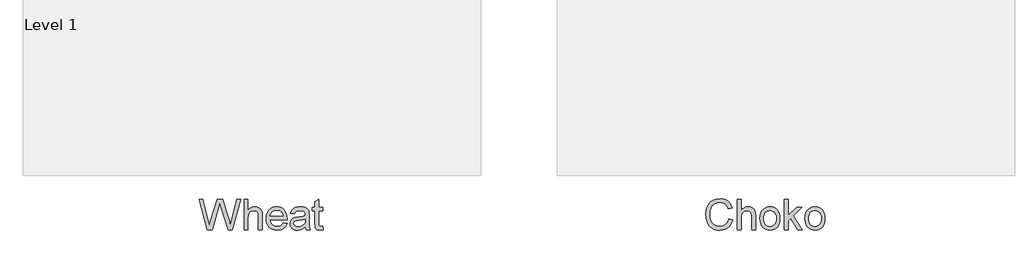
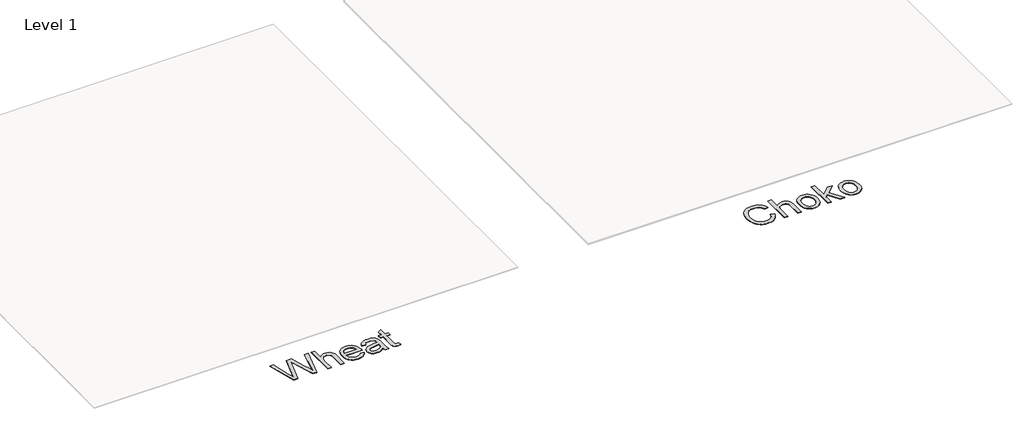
# One storey, part 5 of 5: 2 proxies.
"""IFC4 building model written with IfcOpenShell, lengths in millimetres."""

from ifc_helpers import new_model, si_unit, origin, origin_with_axes, place, context, project, spatial, polyline, outline, extrude, element, save

model = new_model("IFC4")

# Units and contexts
model_context = context("Model", 3, world=origin())
ifc_project = project(units=[si_unit("LENGTHUNIT", "METRE", prefix="MILLI")], contexts=[model_context])

# Site, building, storey
site = spatial("IfcSite", under=ifc_project)
building = spatial("IfcBuilding", under=site)
storey = spatial("IfcBuildingStorey", under=building, Name="Level 1", Elevation=0.0)

# Proxies
placement = place(None, origin())
element("IfcBuildingElementProxy", 1, Name="400mm Arial", ObjectType="400mm Arial", at=placement, inside=storey, context=model_context, shape_type="SweptSolid", body=[
    extrude(outline(polyline([(24753.9457027, 3905.1077423), (24644.3659191, 4306.9329829), (24696.163704, 4306.9329829), (24759.7337128, 4042.8427613), (24779.3540858, 3961.3201112), (24800.347885, 4033.4249822), (24880.0065997, 4306.9329829), (24954.6621193, 4306.9329829), (25012.5422199, 4108.669113), (25037.3374663, 4035.0927139), (25055.6089388, 3961.3201112), (25074.6407006, 4040.4883165), (25138.7012187, 4306.9329829), (25190.5971055, 4306.9329829), (25081.1154238, 3905.1077423), (25027.3556015, 3905.1077423), (24930.9214679, 4215.1096369), (24917.4815123, 4258.3725595), (24902.373825, 4206.280469), (24814.5726555, 3905.1077423), (24753.9457027, 3905.1077423)])), origin_with_axes(), (0.0, 0.0, 1.0), 5.0),
    extrude(outline(polyline([(25234.5467412, 3905.1077423), (25234.5467412, 4306.9329829), (25284.7748963, 4306.9329829), (25284.7748963, 4159.1915736), (25303.2241783, 4179.8788045), (25323.942066, 4194.655398), (25346.9285594, 4203.5213541), (25372.1836583, 4206.4766728), (25402.5216602, 4203.2515739), (25428.5922309, 4193.5762775), (25449.1200463, 4178.2110728), (25462.829782, 4157.9162494), (25470.5553039, 4130.0307942), (25473.1304778, 4091.893694), (25473.1304778, 3905.1077423), (25422.9023227, 3905.1077423), (25422.9023227, 4086.6942951), (25418.9046717, 4118.135943), (25406.9117187, 4139.6693024), (25387.5856512, 4152.1037139), (25361.5886569, 4156.2485177), (25340.3618658, 4153.4526145), (25320.4349244, 4145.064905), (25303.9292855, 4131.8947296), (25292.966402, 4114.7514286), (25286.8227727, 4091.9672704), (25284.7748963, 4061.8745232), (25284.7748963, 3905.1077423), (25234.5467412, 3905.1077423)])), origin_with_axes(), (0.0, 0.0, 1.0), 5.0),
    extrude(outline(polyline([(25748.7967195, 3993.0070137), (25798.043856, 3986.7284943), (25790.493078, 3967.003888), (25780.2996811, 3949.6214637), (25767.4636651, 3934.5812215), (25751.9850302, 3921.8831613), (25734.0231917, 3911.7970633), (25713.7375654, 3904.5927075), (25666.1949489, 3898.8292229), (25635.0292125, 3901.3154921), (25607.2602533, 3908.7742995), (25582.8880711, 3921.2056453), (25561.912666, 3938.6095293), (25545.0452765, 3960.5015737), (25532.9971412, 3986.3974005), (25525.76826, 4016.2970097), (25523.3586329, 4050.2004012), (25525.7927854, 4085.253424), (25533.095243, 4116.1493802), (25545.2660057, 4142.8882699), (25562.3050735, 4165.470093), (25583.2252962, 4183.4104717), (25607.0395241, 4196.2250278), (25633.7477569, 4203.9137615), (25663.3499948, 4206.4766728), (25691.9988052, 4203.9198929), (25717.9068947, 4196.2495533), (25741.0742633, 4183.465654), (25761.5009111, 4165.5681949), (25778.1751625, 4143.0354227), (25790.0853421, 4116.3455839), (25797.2314499, 4085.4986786), (25799.6134858, 4050.4947068), (25799.3191802, 4036.9566494), (25573.586788, 4036.9566494), (25576.4961214, 4016.913212), (25582.2810658, 3999.3591095), (25590.9416211, 3984.2943418), (25602.4777873, 3971.7189089), (25616.2519024, 3961.8044891), (25631.6263041, 3954.7227607), (25667.1759675, 3949.057378), (25693.9087259, 3951.6816029), (25716.423104, 3959.5542776), (25734.7191019, 3973.1659114), (25748.7967195, 3993.0070137)]), holes=[polyline([(25573.586788, 4087.1848045), (25749.3853307, 4087.1848045), (25742.5917766, 4113.721359), (25729.2744483, 4132.70407), (25715.5769754, 4143.0047659), (25699.9910415, 4150.3624058), (25682.5166467, 4154.7769897), (25663.1537911, 4156.2485177), (25629.2963848, 4151.5518909), (25601.3005649, 4137.4620105), (25581.8396074, 4115.4994553), (25573.586788, 4087.1848045)])]), origin_with_axes(), (0.0, 0.0, 1.0), 5.0),
    extrude(outline(polyline([(26038.1972224, 3942.7788586), (26014.1990536, 3922.2019923), (25989.4896463, 3908.7375113), (25963.5049147, 3901.306295), (25935.6807731, 3898.8292229), (25913.3166135, 3900.319145), (25893.7054374, 3904.7889112), (25876.847245, 3912.2385216), (25862.7420362, 3922.6679762), (25851.6044088, 3935.4150873), (25843.6489606, 3949.8176675), (25838.8756917, 3965.8757165), (25837.2846021, 3983.5892346), (25839.6880978, 4004.4113555), (25846.8985849, 4023.3204901), (25858.0208839, 4039.5072979), (25872.1598153, 4052.1624385), (25888.7758187, 4061.7273704), (25907.329334, 4068.6435519), (25950.7884604, 4076.1973955), (26002.1447869, 4084.1436466), (26037.9029168, 4093.4633238), (26038.1972224, 4104.6469365), (26034.7391317, 4127.0632127), (26024.3648594, 4141.7294416), (26001.1637682, 4152.6187487), (25968.8392036, 4156.2485177), (25938.9181346, 4153.8327592), (25918.0224373, 4146.5854839), (25903.7731414, 4133.1823166), (25893.7912766, 4112.298882), (25843.5631215, 4118.5774014), (25852.2819248, 4146.0459237), (25865.2926847, 4167.6283341), (25883.8094118, 4184.1339729), (25909.0461166, 4196.3721806), (25939.911416, 4203.9505497), (25975.3139267, 4206.4766728), (26009.2694349, 4204.2448553), (26036.1861342, 4197.549403), (26056.4809576, 4187.4816991), (26070.570838, 4175.1331268), (26079.9150407, 4159.866024), (26085.9728309, 4141.0427285), (26088.4253775, 4097.0930929), (26088.4253775, 4034.6022046), (26090.976026, 3947.3405954), (26100.9824163, 3905.1077423), (26050.7542612, 3905.1077423), (26042.7099082, 3922.5698743), (26038.1972224, 3942.7788586)]), holes=[polyline([(26038.1972224, 4043.2351688), (26004.4501807, 4034.8719847), (25957.1650816, 4027.8331759), (25913.9512099, 4019.6907211), (25902.7062836, 4014.1234402), (25894.3798878, 4006.4469692), (25889.2295398, 3997.2499194), (25887.5127572, 3987.1209018), (25891.2528908, 3972.1848928), (25902.4732917, 3959.9466851), (25920.9287051, 3951.7797048), (25946.3738764, 3949.057378), (25973.3518894, 3952.0617476), (25997.1906427, 3961.0748565), (26016.5167102, 3974.3553965), (26029.9566657, 3990.1620596), (26035.916354, 4006.4469692), (26037.9029168, 4029.0103983), (26038.1972224, 4043.2351688)])]), origin_with_axes(), (0.0, 0.0, 1.0), 5.0),
    extrude(outline(polyline([(26264.2239202, 3946.9972388), (26270.5024396, 3903.6362143), (26232.9294252, 3898.8292229), (26208.8208918, 3900.9138876), (26190.8437249, 3907.1678815), (26178.1395334, 3916.8063898), (26169.8499258, 3929.0445975), (26165.288189, 3950.0629221), (26163.7676101, 3986.0417812), (26163.7676101, 4149.9699983), (26126.0964938, 4149.9699983), (26126.0964938, 4200.1981534), (26163.7676101, 4200.1981534), (26163.7676101, 4271.910617), (26213.9957652, 4301.4392784), (26213.9957652, 4200.1981534), (26264.2239202, 4200.1981534), (26264.2239202, 4149.9699983), (26213.9957652, 4149.9699983), (26213.9957652, 3987.5133092), (26216.6445155, 3961.6144168), (26225.2284288, 3952.4418924), (26242.3472043, 3949.057378), (26264.2239202, 3946.9972388)])), origin_with_axes(), (0.0, 0.0, 1.0), 5.0),
])
element("IfcBuildingElementProxy", 2, Name="400mm Arial", ObjectType="400mm Arial", at=placement, inside=storey, context=model_context, shape_type="SweptSolid", body=[
    extrude(outline(polyline([(31591.0060827, 4047.9440583), (31641.2342378, 4034.9946121), (31631.2952926, 4003.758365), (31618.0576721, 3976.4645866), (31601.5213764, 3953.113277), (31581.6864055, 3933.7044361), (31559.0003491, 3918.4465303), (31533.9107971, 3907.5480262), (31506.4177493, 3901.0089237), (31476.5212058, 3898.8292229), (31445.891964, 3900.4785605), (31418.2609605, 3905.4265734), (31393.6281953, 3913.6732614), (31371.9936683, 3925.2186247), (31353.0600082, 3939.8909849), (31336.5298439, 3957.5186639), (31322.4031753, 3978.1016615), (31310.6800024, 4001.6399778), (31294.8978648, 4053.5113392), (31289.6371523, 4109.0615204), (31295.5845779, 4167.6528595), (31303.0188599, 4193.9502908), (31313.4268546, 4218.2488966), (31326.5755703, 4240.1470724), (31342.2320149, 4259.2432136), (31360.3961884, 4275.5373203), (31381.0680908, 4289.0293925), (31403.5456807, 4299.6090655), (31427.1269166, 4307.1659748), (31477.6003263, 4313.2115023), (31506.3288445, 4311.2555963), (31532.672261, 4305.3878785), (31556.630576, 4295.6083488), (31578.2037893, 4281.9170072), (31597.0362818, 4264.6756044), (31612.7724341, 4244.2458909), (31625.4122463, 4220.6278668), (31634.9557184, 4193.8215321), (31584.7275633, 4181.8531045), (31567.3144822, 4218.4818885), (31543.5247799, 4243.6082288), (31513.0641507, 4258.1395676), (31475.638289, 4262.9833472), (31432.4979937, 4257.6122701), (31413.8157198, 4250.8984237), (31397.0586949, 4241.4990387), (31370.166521, 4216.3359102), (31352.6676008, 4183.8151419), (31343.0658807, 4147.0514678), (31339.8653074, 4109.1596223), (31343.6544919, 4062.75744), (31355.0220456, 4022.633777), (31374.397164, 3990.3214751), (31402.2090428, 3967.3533759), (31435.5514143, 3953.6313775), (31471.5180107, 3949.057378), (31493.3548728, 3950.6147451), (31513.4442954, 3955.2868464), (31531.7862786, 3963.073682), (31548.3808222, 3973.9752518), (31562.8355189, 3987.9425049), (31574.7579613, 4004.9263903), (31584.1481492, 4024.9269081), (31591.0060827, 4047.9440583)])), origin_with_axes(), (0.0, 0.0, 1.0), 5.0),
    extrude(outline(polyline([(31704.0194316, 3905.1077423), (31704.0194316, 4306.9329829), (31754.2475867, 4306.9329829), (31754.2475867, 4159.1915736), (31772.6968688, 4179.8788045), (31793.4147565, 4194.655398), (31816.4012498, 4203.5213541), (31841.6563488, 4206.4766728), (31871.9943506, 4203.2515739), (31898.0649214, 4193.5762775), (31918.5927367, 4178.2110728), (31932.3024724, 4157.9162494), (31940.0279943, 4130.0307942), (31942.6031683, 4091.893694), (31942.6031683, 3905.1077423), (31892.3750132, 3905.1077423), (31892.3750132, 4086.6942951), (31888.3773622, 4118.135943), (31876.3844091, 4139.6693024), (31857.0583416, 4152.1037139), (31831.0613473, 4156.2485177), (31809.8345562, 4153.4526145), (31789.9076148, 4145.064905), (31773.4019759, 4131.8947296), (31762.4390925, 4114.7514286), (31756.2954632, 4091.9672704), (31754.2475867, 4061.8745232), (31754.2475867, 3905.1077423), (31704.0194316, 3905.1077423)])), origin_with_axes(), (0.0, 0.0, 1.0), 5.0),
    extrude(outline(polyline([(31999.1098427, 4052.6529478), (32001.8260381, 4090.8697558), (32009.9746243, 4123.8013257), (32023.5556013, 4151.4476576), (32042.5689691, 4173.8087516), (32061.7110956, 4188.1009671), (32082.8397848, 4198.3096925), (32105.9550368, 4204.4349277), (32131.0568516, 4206.4766728), (32158.7675629, 4203.9904036), (32183.8233925, 4196.5315962), (32206.2243403, 4184.1002504), (32225.9704064, 4166.6963663), (32242.0867035, 4144.9085552), (32253.5983442, 4119.3254281), (32260.5053287, 4089.9469851), (32262.8076569, 4056.7732262), (32258.7364294, 4006.0300363), (32246.5227472, 3967.4024268), (32226.5222294, 3938.4746393), (32199.0904953, 3916.8309152), (32166.5084132, 3903.329646), (32131.0568516, 3898.8292229), (32102.9414702, 3901.306295), (32077.6526487, 3908.7375113), (32055.1903872, 3921.1228718), (32035.5546857, 3938.4623765), (32019.6100669, 3960.4617198), (32008.2210535, 3986.8265962), (32001.3876454, 4017.5570055), (31999.1098427, 4052.6529478)]), holes=[polyline([(32049.3379978, 4052.7510497), (32050.7911317, 4028.3880646), (32055.1505333, 4007.2930978), (32062.4162027, 3989.4661495), (32072.5881399, 3974.9072195), (32084.9612377, 3963.5979139), (32098.8303889, 3955.5198384), (32114.1955935, 3950.6729931), (32131.0568516, 3949.057378), (32147.8322706, 3950.6821901), (32163.1361616, 3955.5566266), (32176.9685246, 3963.6806873), (32189.3293597, 3975.0543723), (32199.5012969, 3989.7573894), (32206.7669663, 4007.8694463), (32211.1263679, 4029.390543), (32212.5795018, 4054.3206795), (32211.1171708, 4077.9111125), (32206.7301781, 4098.4542562), (32199.4185234, 4115.9501108), (32189.1822069, 4130.3986762), (32176.7753866, 4141.7079818), (32162.9522206, 4149.7860573), (32147.712709, 4154.6329026), (32131.0568516, 4156.2485177), (32114.1955935, 4154.639034), (32098.8303889, 4149.8105828), (32084.9612377, 4141.7631641), (32072.5881399, 4130.496778), (32062.4162027, 4115.9807676), (32055.1505333, 4098.1844761), (32050.7911317, 4077.1079035), (32049.3379978, 4052.7510497)])]), origin_with_axes(), (0.0, 0.0, 1.0), 5.0),
    extrude(outline(polyline([(32319.3143313, 3905.1077423), (32319.3143313, 4306.9329829), (32369.5424864, 4306.9329829), (32369.5424864, 4091.0107772), (32482.1634278, 4200.1981534), (32551.6195485, 4200.1981534), (32437.5270791, 4089.6373511), (32557.8980679, 3905.1077423), (32499.2331524, 3905.1077423), (32401.5236945, 4054.713087), (32369.5424864, 4023.6147957), (32369.5424864, 3905.1077423), (32319.3143313, 3905.1077423)])), origin_with_axes(), (0.0, 0.0, 1.0), 5.0),
    extrude(outline(polyline([(32589.2906648, 4052.6529478), (32592.0068602, 4090.8697558), (32600.1554464, 4123.8013257), (32613.7364234, 4151.4476576), (32632.7497912, 4173.8087516), (32651.8919177, 4188.1009671), (32673.0206069, 4198.3096925), (32696.135859, 4204.4349277), (32721.2376738, 4206.4766728), (32748.9483851, 4203.9904036), (32774.0042146, 4196.5315962), (32796.4051624, 4184.1002504), (32816.1512285, 4166.6963663), (32832.2675256, 4144.9085552), (32843.7791664, 4119.3254281), (32850.6861508, 4089.9469851), (32852.988479, 4056.7732262), (32848.9172516, 4006.0300363), (32836.7035693, 3967.4024268), (32816.7030515, 3938.4746393), (32789.2713174, 3916.8309152), (32756.6892354, 3903.329646), (32721.2376738, 3898.8292229), (32693.1222923, 3901.306295), (32667.8334708, 3908.7375113), (32645.3712093, 3921.1228718), (32625.7355078, 3938.4623765), (32609.790889, 3960.4617198), (32598.4018756, 3986.8265962), (32591.5684675, 4017.5570055), (32589.2906648, 4052.6529478)]), holes=[polyline([(32639.5188199, 4052.7510497), (32640.9719538, 4028.3880646), (32645.3313554, 4007.2930978), (32652.5970248, 3989.4661495), (32662.768962, 3974.9072195), (32675.1420598, 3963.5979139), (32689.011211, 3955.5198384), (32704.3764157, 3950.6729931), (32721.2376738, 3949.057378), (32738.0130928, 3950.6821901), (32753.3169838, 3955.5566266), (32767.1493468, 3963.6806873), (32779.5101818, 3975.0543723), (32789.682119, 3989.7573894), (32796.9477884, 4007.8694463), (32801.30719, 4029.390543), (32802.7603239, 4054.3206795), (32801.297993, 4077.9111125), (32796.9110002, 4098.4542562), (32789.5993455, 4115.9501108), (32779.363029, 4130.3986762), (32766.9562087, 4141.7079818), (32753.1330428, 4149.7860573), (32737.8935311, 4154.6329026), (32721.2376738, 4156.2485177), (32704.3764157, 4154.639034), (32689.011211, 4149.8105828), (32675.1420598, 4141.7631641), (32662.768962, 4130.496778), (32652.5970248, 4115.9807676), (32645.3313554, 4098.1844761), (32640.9719538, 4077.1079035), (32639.5188199, 4052.7510497)])]), origin_with_axes(), (0.0, 0.0, 1.0), 5.0),
])

save(model, "model.ifc")
